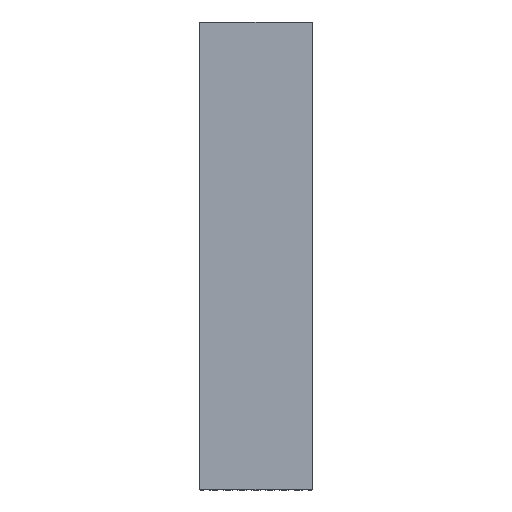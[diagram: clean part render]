
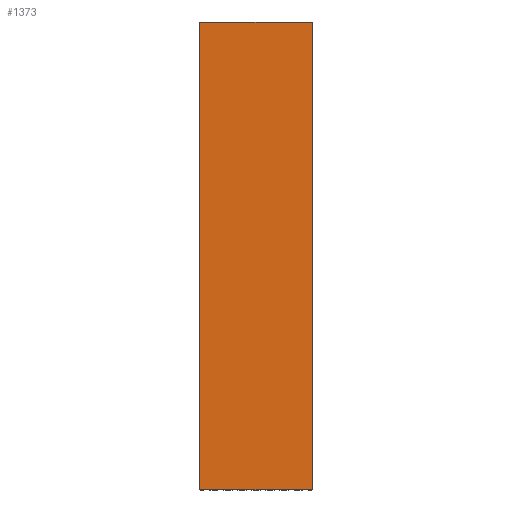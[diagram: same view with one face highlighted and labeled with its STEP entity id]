
A CAD part, top view. The second image highlights one B-rep face of the part: STEP entity #1373.
In plain terms, the highlighted planar face has unit normal (0, 0, 1).
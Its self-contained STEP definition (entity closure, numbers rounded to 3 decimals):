
#159 = LINE ( 'NONE', #3744, #6046 ) ;
#414 = AXIS2_PLACEMENT_3D ( 'NONE', #714, #7653, #1488 ) ;
#714 = CARTESIAN_POINT ( 'NONE',  ( 67.788, -1000., -41.043 ) ) ;
#865 = VECTOR ( 'NONE', #2851, 1000. ) ;
#1373 = ADVANCED_FACE ( 'NONE', ( #1402 ), #8458, .T. ) ;
#1402 = FACE_OUTER_BOUND ( 'NONE', #5709, .T. ) ;
#1481 = VECTOR ( 'NONE', #5764, 1000. ) ;
#1488 = DIRECTION ( 'NONE',  ( 1., 0., 0. ) ) ;
#1679 = CARTESIAN_POINT ( 'NONE',  ( -52.212, 0., -41.043 ) ) ;
#1938 = CARTESIAN_POINT ( 'NONE',  ( 187.788, 0., -41.043 ) ) ;
#2010 = ORIENTED_EDGE ( 'NONE', *, *, #4744, .F. ) ;
#2851 = DIRECTION ( 'NONE',  ( 1., 0., 0. ) ) ;
#3092 = CARTESIAN_POINT ( 'NONE',  ( -52.212, -1000., -41.043 ) ) ;
#3744 = CARTESIAN_POINT ( 'NONE',  ( 67.788, -1000., -41.043 ) ) ;
#4028 = ORIENTED_EDGE ( 'NONE', *, *, #6138, .T. ) ;
#4122 = VERTEX_POINT ( 'NONE', #5353 ) ;
#4330 = CARTESIAN_POINT ( 'NONE',  ( 67.788, 0., -41.043 ) ) ;
#4608 = ORIENTED_EDGE ( 'NONE', *, *, #8071, .T. ) ;
#4674 = VERTEX_POINT ( 'NONE', #1938 ) ;
#4744 = EDGE_CURVE ( 'NONE', #8689, #4674, #8438, .T. ) ;
#5144 = LINE ( 'NONE', #8619, #7850 ) ;
#5353 = CARTESIAN_POINT ( 'NONE',  ( 187.788, -1000., -41.043 ) ) ;
#5709 = EDGE_LOOP ( 'NONE', ( #2010, #7642, #4028, #4608 ) ) ;
#5764 = DIRECTION ( 'NONE',  ( 0., 1., 0. ) ) ;
#5904 = CARTESIAN_POINT ( 'NONE',  ( -52.212, -1000., -41.043 ) ) ;
#6046 = VECTOR ( 'NONE', #8641, 1000. ) ;
#6138 = EDGE_CURVE ( 'NONE', #9010, #4122, #159, .T. ) ;
#6225 = EDGE_CURVE ( 'NONE', #9010, #8689, #6454, .T. ) ;
#6454 = LINE ( 'NONE', #5904, #1481 ) ;
#6522 = DIRECTION ( 'NONE',  ( 0., 1., 0. ) ) ;
#7642 = ORIENTED_EDGE ( 'NONE', *, *, #6225, .F. ) ;
#7653 = DIRECTION ( 'NONE',  ( 0., 0., 1. ) ) ;
#7850 = VECTOR ( 'NONE', #6522, 1000. ) ;
#8071 = EDGE_CURVE ( 'NONE', #4122, #4674, #5144, .T. ) ;
#8438 = LINE ( 'NONE', #4330, #865 ) ;
#8458 = PLANE ( 'NONE',  #414 ) ;
#8619 = CARTESIAN_POINT ( 'NONE',  ( 187.788, -1000., -41.043 ) ) ;
#8641 = DIRECTION ( 'NONE',  ( 1., 0., 0. ) ) ;
#8689 = VERTEX_POINT ( 'NONE', #1679 ) ;
#9010 = VERTEX_POINT ( 'NONE', #3092 ) ;
